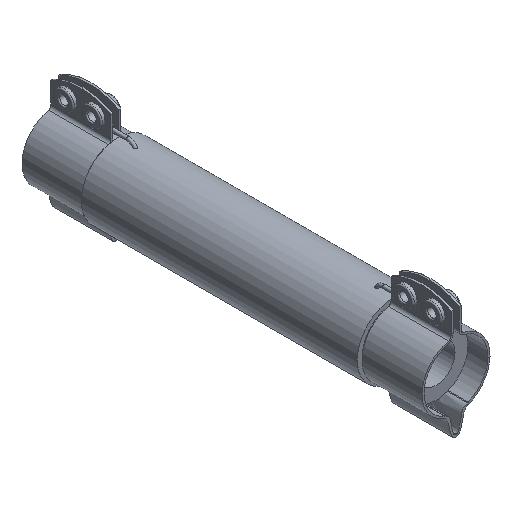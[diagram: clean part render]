
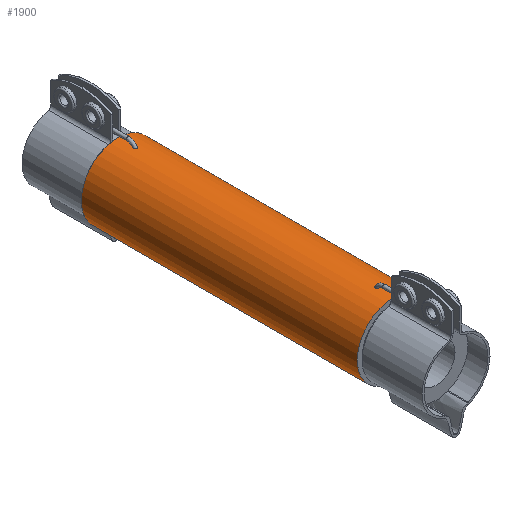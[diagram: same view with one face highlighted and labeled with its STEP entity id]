
A CAD part, isometric view. The second image highlights one B-rep face of the part: STEP entity #1900.
In plain terms, the highlighted cylindrical face has radius 9.175 mm (diameter 18.35 mm), a full revolution.
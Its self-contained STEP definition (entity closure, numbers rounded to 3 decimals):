
#195=B_SPLINE_CURVE_WITH_KNOTS($,3,(#2991,#2992,#2993,#2994,#2995,#2996,
#2997,#2998,#2999,#3000,#3001,#3002,#3003,#3004,#3005,#3006,#3007,#3008,
#3009,#3010,#3011,#3012,#3013,#3014,#3015,#3016,#3017,#3018,#3019,#3020,
#3021,#3022,#3023,#3024,#3025,#3026),.UNSPECIFIED.,.T.,.F.,(4,2,2,2,2,2,
2,2,2,2,2,2,2,2,2,2,2,4),(0.,0.015,0.03,0.046,
0.064,0.084,0.104,0.121,
0.134,0.146,0.159,0.176,
0.196,0.217,0.235,0.251,
0.261,0.271),.UNSPECIFIED.);
#196=B_SPLINE_CURVE_WITH_KNOTS($,3,(#3028,#3029,#3030,#3031,#3032,#3033,
#3034,#3035,#3036,#3037,#3038,#3039,#3040,#3041,#3042,#3043,#3044,#3045,
#3046,#3047,#3048,#3049,#3050,#3051,#3052,#3053,#3054,#3055,#3056,#3057,
#3058,#3059,#3060,#3061,#3062,#3063),.UNSPECIFIED.,.T.,.F.,(4,2,2,2,2,2,
2,2,2,2,2,2,2,2,2,2,2,4),(0.,0.015,0.03,0.046,
0.064,0.084,0.104,0.121,
0.134,0.146,0.159,0.176,0.196,
0.217,0.235,0.251,0.261,
0.271),.UNSPECIFIED.);
#285=FACE_BOUND($,#594,.T.);
#286=FACE_BOUND($,#595,.T.);
#287=FACE_BOUND($,#596,.T.);
#288=FACE_BOUND($,#597,.T.);
#355=CYLINDRICAL_SURFACE($,#2092,9.175);
#594=EDGE_LOOP($,(#1338));
#595=EDGE_LOOP($,(#1339));
#596=EDGE_LOOP($,(#1340));
#597=EDGE_LOOP($,(#1341));
#753=CIRCLE($,#2093,9.175);
#754=CIRCLE($,#2094,9.175);
#880=VERTEX_POINT($,#2990);
#881=VERTEX_POINT($,#3027);
#882=VERTEX_POINT($,#3064);
#883=VERTEX_POINT($,#3066);
#1058=EDGE_CURVE($,#880,#880,#195,.T.);
#1059=EDGE_CURVE($,#881,#881,#196,.T.);
#1060=EDGE_CURVE($,#882,#882,#753,.T.);
#1061=EDGE_CURVE($,#883,#883,#754,.T.);
#1338=ORIENTED_EDGE($,*,*,#1058,.T.);
#1339=ORIENTED_EDGE($,*,*,#1059,.T.);
#1340=ORIENTED_EDGE($,*,*,#1060,.T.);
#1341=ORIENTED_EDGE($,*,*,#1061,.F.);
#1900=ADVANCED_FACE($,(#285,#286,#287,#288),#355,.T.);
#2092=AXIS2_PLACEMENT_3D($,#2989,#2458,#2459);
#2093=AXIS2_PLACEMENT_3D($,#3065,#2460,#2461);
#2094=AXIS2_PLACEMENT_3D($,#3067,#2462,#2463);
#2458=DIRECTION('center_axis',(0.,1.,0.));
#2459=DIRECTION('ref_axis',(0.216,0.,-0.976));
#2460=DIRECTION('center_axis',(0.,-1.,0.));
#2461=DIRECTION('ref_axis',(0.216,0.,-0.976));
#2462=DIRECTION('center_axis',(0.,-1.,0.));
#2463=DIRECTION('ref_axis',(0.216,0.,-0.976));
#2989=CARTESIAN_POINT('Origin',(0.,10.5,0.));
#2990=CARTESIAN_POINT('',(0.,15.193,9.175));
#2991=CARTESIAN_POINT('Ctrl Pts',(0.,15.193,9.175));
#2992=CARTESIAN_POINT('Ctrl Pts',(0.049,15.193,9.175));
#2993=CARTESIAN_POINT('Ctrl Pts',(0.097,15.184,9.175));
#2994=CARTESIAN_POINT('Ctrl Pts',(0.188,15.146,9.173));
#2995=CARTESIAN_POINT('Ctrl Pts',(0.23,15.118,9.172));
#2996=CARTESIAN_POINT('Ctrl Pts',(0.305,15.046,9.17));
#2997=CARTESIAN_POINT('Ctrl Pts',(0.336,15.001,9.169));
#2998=CARTESIAN_POINT('Ctrl Pts',(0.383,14.897,9.167));
#2999=CARTESIAN_POINT('Ctrl Pts',(0.396,14.837,9.166));
#3000=CARTESIAN_POINT('Ctrl Pts',(0.403,14.709,9.166));
#3001=CARTESIAN_POINT('Ctrl Pts',(0.393,14.641,9.167));
#3002=CARTESIAN_POINT('Ctrl Pts',(0.349,14.513,9.168));
#3003=CARTESIAN_POINT('Ctrl Pts',(0.315,14.452,9.17));
#3004=CARTESIAN_POINT('Ctrl Pts',(0.234,14.361,9.172));
#3005=CARTESIAN_POINT('Ctrl Pts',(0.191,14.326,9.173));
#3006=CARTESIAN_POINT('Ctrl Pts',(0.104,14.284,9.174));
#3007=CARTESIAN_POINT('Ctrl Pts',(0.062,14.272,9.175));
#3008=CARTESIAN_POINT('Ctrl Pts',(-0.022,14.267,9.175));
#3009=CARTESIAN_POINT('Ctrl Pts',(-0.062,14.272,
9.175));
#3010=CARTESIAN_POINT('Ctrl Pts',(-0.143,14.299,9.174));
#3011=CARTESIAN_POINT('Ctrl Pts',(-0.182,14.322,9.173));
#3012=CARTESIAN_POINT('Ctrl Pts',(-0.26,14.385,9.171));
#3013=CARTESIAN_POINT('Ctrl Pts',(-0.297,14.429,9.17));
#3014=CARTESIAN_POINT('Ctrl Pts',(-0.36,14.536,9.168));
#3015=CARTESIAN_POINT('Ctrl Pts',(-0.383,14.602,9.167));
#3016=CARTESIAN_POINT('Ctrl Pts',(-0.404,14.736,9.166));
#3017=CARTESIAN_POINT('Ctrl Pts',(-0.402,14.805,9.166));
#3018=CARTESIAN_POINT('Ctrl Pts',(-0.371,14.929,9.167));
#3019=CARTESIAN_POINT('Ctrl Pts',(-0.346,14.984,9.169));
#3020=CARTESIAN_POINT('Ctrl Pts',(-0.279,15.075,9.171));
#3021=CARTESIAN_POINT('Ctrl Pts',(-0.239,15.112,9.172));
#3022=CARTESIAN_POINT('Ctrl Pts',(-0.164,15.157,9.174));
#3023=CARTESIAN_POINT('Ctrl Pts',(-0.133,15.17,9.174));
#3024=CARTESIAN_POINT('Ctrl Pts',(-0.067,15.188,
9.175));
#3025=CARTESIAN_POINT('Ctrl Pts',(-0.034,15.193,9.175));
#3026=CARTESIAN_POINT('Ctrl Pts',(0.,15.193,9.175));
#3027=CARTESIAN_POINT('',(0.,74.807,9.175));
#3028=CARTESIAN_POINT('Ctrl Pts',(0.,74.807,9.175));
#3029=CARTESIAN_POINT('Ctrl Pts',(-0.049,74.807,9.175));
#3030=CARTESIAN_POINT('Ctrl Pts',(-0.097,74.816,
9.175));
#3031=CARTESIAN_POINT('Ctrl Pts',(-0.188,74.854,9.173));
#3032=CARTESIAN_POINT('Ctrl Pts',(-0.23,74.882,9.172));
#3033=CARTESIAN_POINT('Ctrl Pts',(-0.305,74.954,9.17));
#3034=CARTESIAN_POINT('Ctrl Pts',(-0.336,74.999,9.169));
#3035=CARTESIAN_POINT('Ctrl Pts',(-0.383,75.103,9.167));
#3036=CARTESIAN_POINT('Ctrl Pts',(-0.396,75.163,9.166));
#3037=CARTESIAN_POINT('Ctrl Pts',(-0.403,75.291,9.166));
#3038=CARTESIAN_POINT('Ctrl Pts',(-0.393,75.359,9.167));
#3039=CARTESIAN_POINT('Ctrl Pts',(-0.349,75.487,9.168));
#3040=CARTESIAN_POINT('Ctrl Pts',(-0.315,75.548,9.17));
#3041=CARTESIAN_POINT('Ctrl Pts',(-0.234,75.639,9.172));
#3042=CARTESIAN_POINT('Ctrl Pts',(-0.191,75.674,9.173));
#3043=CARTESIAN_POINT('Ctrl Pts',(-0.104,75.716,9.174));
#3044=CARTESIAN_POINT('Ctrl Pts',(-0.062,75.728,9.175));
#3045=CARTESIAN_POINT('Ctrl Pts',(0.022,75.733,9.175));
#3046=CARTESIAN_POINT('Ctrl Pts',(0.062,75.728,9.175));
#3047=CARTESIAN_POINT('Ctrl Pts',(0.143,75.701,9.174));
#3048=CARTESIAN_POINT('Ctrl Pts',(0.182,75.678,9.173));
#3049=CARTESIAN_POINT('Ctrl Pts',(0.26,75.615,9.171));
#3050=CARTESIAN_POINT('Ctrl Pts',(0.297,75.571,9.17));
#3051=CARTESIAN_POINT('Ctrl Pts',(0.36,75.464,9.168));
#3052=CARTESIAN_POINT('Ctrl Pts',(0.383,75.398,9.167));
#3053=CARTESIAN_POINT('Ctrl Pts',(0.404,75.264,9.166));
#3054=CARTESIAN_POINT('Ctrl Pts',(0.402,75.195,9.166));
#3055=CARTESIAN_POINT('Ctrl Pts',(0.371,75.071,9.167));
#3056=CARTESIAN_POINT('Ctrl Pts',(0.346,75.016,9.169));
#3057=CARTESIAN_POINT('Ctrl Pts',(0.279,74.925,9.171));
#3058=CARTESIAN_POINT('Ctrl Pts',(0.239,74.888,9.172));
#3059=CARTESIAN_POINT('Ctrl Pts',(0.164,74.843,9.174));
#3060=CARTESIAN_POINT('Ctrl Pts',(0.133,74.83,9.174));
#3061=CARTESIAN_POINT('Ctrl Pts',(0.067,74.812,9.175));
#3062=CARTESIAN_POINT('Ctrl Pts',(0.034,74.807,9.175));
#3063=CARTESIAN_POINT('Ctrl Pts',(0.,74.807,9.175));
#3064=CARTESIAN_POINT('',(-1.977,79.5,8.959));
#3065=CARTESIAN_POINT('Origin',(0.,79.5,0.));
#3066=CARTESIAN_POINT('',(-1.977,10.5,8.959));
#3067=CARTESIAN_POINT('Origin',(0.,10.5,0.));
